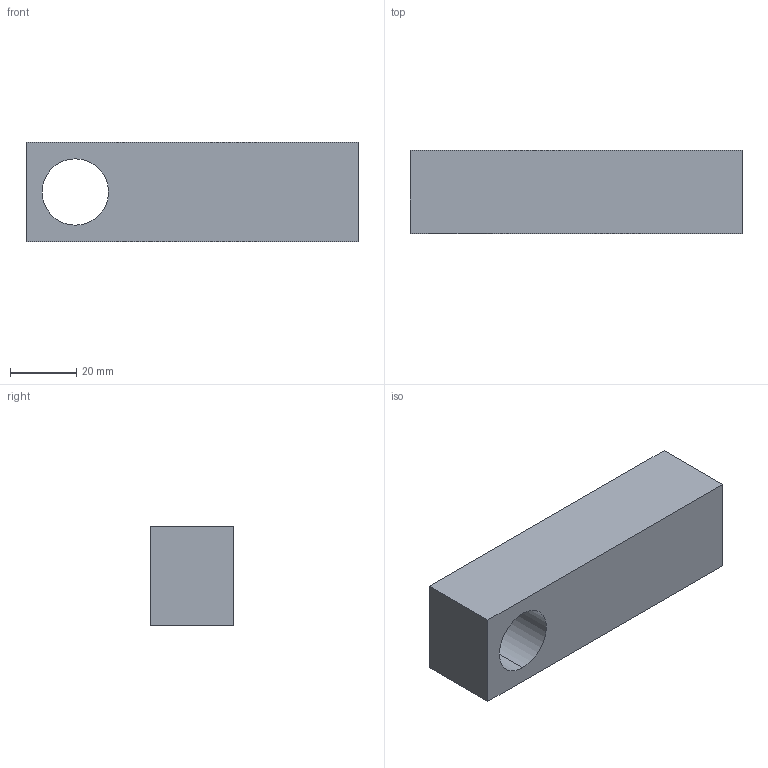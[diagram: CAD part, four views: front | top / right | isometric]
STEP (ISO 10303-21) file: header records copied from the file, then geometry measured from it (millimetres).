
FILE_DESCRIPTION (( 'STEP AP203' ), '1' );
FILE_NAME ('radical arm_Default_sldprt.STEP', '2025-01-16T15:45:00', ( '' ), ( '' ), 'SwSTEP 2.0', 'SolidWorks 2020', '' );
FILE_SCHEMA (( 'CONFIG_CONTROL_DESIGN' ));
Length unit declared in the file: millimetre
Products named in the file (1): radical arm_Default_sldprt
Bounding box: 100 x 25 x 30 mm (x, y, z)
Volume: 49867.3 mm3; surface area: 16898.2 mm2
Topology: 1 solids, 1 shells, 11 faces, 24 edges, 16 vertices
Faces by surface type: plane 7, cylinder 4
Entity records: 387 total; most frequent: DIRECTION 56, CARTESIAN_POINT 52, ORIENTED_EDGE 48, EDGE_CURVE 24, AXIS2_PLACEMENT_3D 20, LINE 16, VERTEX_POINT 16, VECTOR 16
